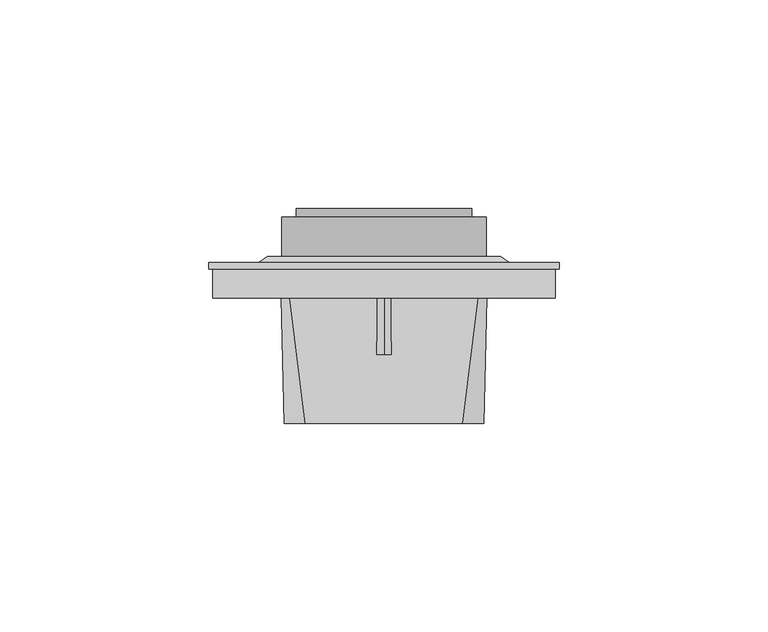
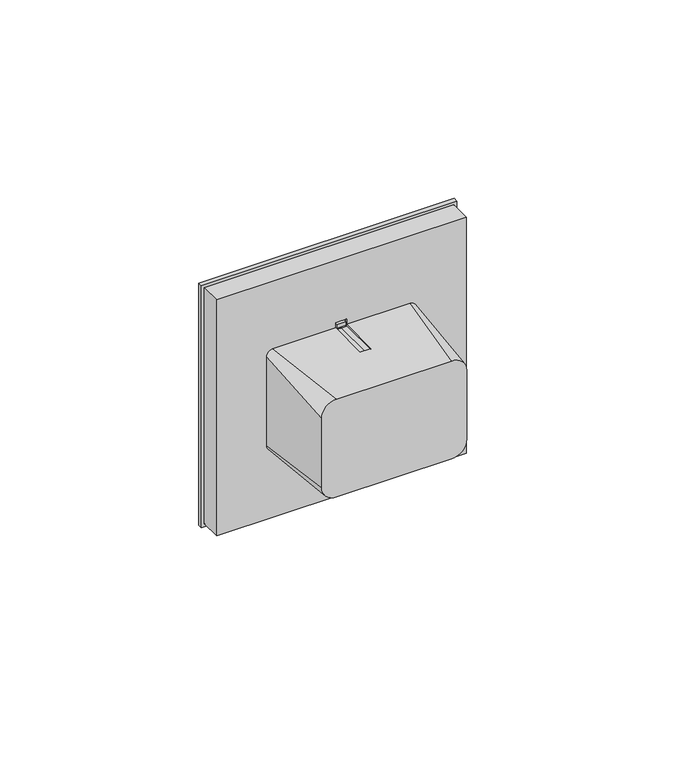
"""IFC4 building model written with IfcOpenShell, lengths in millimetres: proxy geometry, IEK_Brite_Розетка_1гн : Р1_РСР14-1-0-БрА."""

from ifc_helpers import new_model, si_unit, point, frame, frame_2d, origin, place, context, project, spatial, polyline, circle_curve, ellipse_curve, trimmed, segment, composite_curve, outline, extrude, source, transform, mapped, element, save
from ifc_brep_helpers import plane_surface, cylinder_surface, revolved_surface, spline_surface, advanced_brep


def electrical_fixtures_78160e77(model_context):
    return source(origin(), model_context, "Body", "SolidModel", [
        advanced_brep(
        [(-26.8904783, -13.4962918, 0.0), (-32.3753617, -13.4962918, 0.0), (-17.4894714, -13.4962918, 0.0), (-23.5105286, -13.4962918, 0.0), (-8.6246383, -13.4962918, 0.0), (-14.1095217, -13.4962918, 0.0), (-18.7082092, -13.4962918, 16.8280847), (-20.5, -13.4962918, 16.8280847), (-22.2917908, -13.4962918, 16.8280847), (-22.2917908, -13.4962918, 17.2750618), (-18.7082092, -13.4962918, 17.2750618), (-22.2917908, -13.4962918, -16.8280847), (-20.5, -13.4962918, -16.8280847), (-18.7082092, -13.4962918, -16.8280847), (-18.7082092, -13.4962918, -17.2750618), (-22.2917908, -13.4962918, -17.2750618), (-32.3753617, 0.0, 0.0), (-26.8904783, 0.0, 0.0), (-23.5105286, 0.0, 0.0), (-17.4894714, 0.0, 0.0), (-14.1095217, 0.0, 0.0), (-8.6246383, 0.0, 0.0), (-22.2917908, 0.0, 16.8280847), (-22.2917908, 0.0, 17.5), (-20.5, 0.0, 16.8280847), (-18.7082092, 0.0, 16.8280847), (-18.7082092, 0.0, 17.5), (-18.7082092, 0.0, -16.8280847), (-18.7082092, 0.0, -17.5), (-20.5, 0.0, -16.8280847), (-22.2917908, 0.0, -16.8280847), (-22.2917908, 0.0, -17.5), (-1.6500177, -30.0, -17.0), (3.3499823, -30.0, -12.0), (3.3499823, -30.0, 12.0), (-1.6500177, -30.0, 17.0), (-39.3499823, -30.0, 17.0), (-44.3499823, -30.0, 12.0), (-44.3499823, -30.0, -12.0), (-39.3499823, -30.0, -17.0), (-43.0691146, 0.0, -17.5), (-45.0691146, 0.0, -15.5), (-45.0691146, 0.0, 15.5), (-43.0691146, 0.0, 17.5), (2.0691146, 0.0, 17.5), (4.0691146, 0.0, 15.5), (4.0691146, 0.0, -15.5), (2.0691146, 0.0, -17.5)],
        [
            (0, 1, circle_curve(frame((-29.63292, -13.4962918, 0.0), z_axis=(0.0, 1.0, 0.0), x_axis=(-1.0, 0.0, 1.2191359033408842e-12)), 2.7424417)),
            (1, 0, circle_curve(frame((-29.63292, -13.4962918, 0.0), z_axis=(0.0, 1.0, 0.0), x_axis=(-1.0, 0.0, 1.2191359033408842e-12)), 2.7424417)),
            (2, 3, circle_curve(frame((-20.5, -13.4962918, 0.0), z_axis=(0.0, 1.0, 0.0), x_axis=(-1.0, 0.0, 1.2191359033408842e-12)), 3.0105286)),
            (3, 2, circle_curve(frame((-20.5, -13.4962918, 0.0), z_axis=(0.0, 1.0, 0.0), x_axis=(-1.0, 0.0, 1.2191359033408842e-12)), 3.0105286)),
            (4, 5, circle_curve(frame((-11.36708, -13.4962918, 0.0), z_axis=(0.0, 1.0, 0.0), x_axis=(-1.0, 0.0, 1.2191359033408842e-12)), 2.7424417)),
            (5, 4, circle_curve(frame((-11.36708, -13.4962918, 0.0), z_axis=(0.0, 1.0, 0.0), x_axis=(-1.0, 0.0, 1.2191359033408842e-12)), 2.7424417)),
            (6, 7),
            (7, 8),
            (8, 9),
            (9, 10),
            (10, 6),
            (11, 12),
            (12, 13),
            (13, 14),
            (14, 15),
            (15, 11),
            (1, 16),
            (16, 17, circle_curve(frame((-29.63292, 0.0, 0.0), z_axis=(0.0, 1.0, 0.0), x_axis=(-1.0, 0.0, 1.2191359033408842e-12)), 2.7424417)),
            (17, 0),
            (17, 16, circle_curve(frame((-29.63292, 0.0, 0.0), z_axis=(0.0, 1.0, 0.0), x_axis=(-1.0, 0.0, 1.2191359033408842e-12)), 2.7424417)),
            (3, 18),
            (18, 19, circle_curve(frame((-20.5, 0.0, 0.0), z_axis=(0.0, 1.0, 0.0), x_axis=(-1.0, 0.0, 1.2191359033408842e-12)), 3.0105286)),
            (19, 2),
            (19, 18, circle_curve(frame((-20.5, 0.0, 0.0), z_axis=(0.0, 1.0, 0.0), x_axis=(-1.0, 0.0, 1.2191359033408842e-12)), 3.0105286)),
            (5, 20),
            (20, 21, circle_curve(frame((-11.36708, 0.0, 0.0), z_axis=(0.0, 1.0, 0.0), x_axis=(-1.0, 0.0, 1.2191359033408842e-12)), 2.7424417)),
            (21, 4),
            (21, 20, circle_curve(frame((-11.36708, 0.0, 0.0), z_axis=(0.0, 1.0, 0.0), x_axis=(-1.0, 0.0, 1.2191359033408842e-12)), 2.7424417)),
            (8, 22),
            (22, 23),
            (23, 9),
            (7, 24),
            (24, 22),
            (6, 25),
            (25, 24),
            (10, 26),
            (26, 25),
            (13, 27),
            (27, 28),
            (28, 14),
            (12, 29),
            (29, 27),
            (11, 30),
            (30, 29),
            (15, 31),
            (31, 30),
            (32, 33, circle_curve(frame((-1.6500177, -30.0, -12.0), z_axis=(0.0, -1.0, 0.0), x_axis=(0.0, 0.0, -1.0)), 5.0)),
            (33, 34),
            (34, 35, circle_curve(frame((-1.6500177, -30.0, 12.0), z_axis=(0.0, -1.0, 0.0), x_axis=(0.0, 0.0, -1.0)), 5.0)),
            (35, 36),
            (36, 37, circle_curve(frame((-39.3499823, -30.0, 12.0), z_axis=(0.0, -1.0, 0.0), x_axis=(0.0, 0.0, -1.0)), 5.0)),
            (37, 38),
            (38, 39, circle_curve(frame((-39.3499823, -30.0, -12.0), z_axis=(0.0, -1.0, 0.0), x_axis=(0.0, 0.0, -1.0)), 5.0)),
            (39, 32),
            (40, 41, circle_curve(frame((-43.0691146, 0.0, -15.5), z_axis=(0.0, 1.0, 0.0), x_axis=(0.0, 0.0, -1.0)), 2.0)),
            (41, 42),
            (42, 43, circle_curve(frame((-43.0691146, 0.0, 15.5), z_axis=(0.0, 1.0, 0.0), x_axis=(0.0, 0.0, -1.0)), 2.0)),
            (43, 23),
            (26, 44),
            (44, 45, circle_curve(frame((2.0691146, 0.0, 15.5), z_axis=(0.0, 1.0, 0.0), x_axis=(0.0, 0.0, -1.0)), 2.0)),
            (45, 46),
            (46, 47, circle_curve(frame((2.0691146, 0.0, -15.5), z_axis=(0.0, 1.0, 0.0), x_axis=(0.0, 0.0, -1.0)), 2.0)),
            (47, 28),
            (31, 40),
            (32, 47),
            (46, 33),
            (45, 34),
            (44, 35),
            (43, 36),
            (42, 37),
            (41, 38),
            (40, 39),
        ],
        [
            plane_surface(frame((-32.3753617, -13.4962918, 0.0), z_axis=(0.0, 1.0, 0.0), x_axis=(-1.2191359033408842e-12, 0.0, -1.0))),
            revolved_surface(polyline([(-32.3753617, -13.4962918, 3.3434091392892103e-12), (-32.3753617, 0.0, 3.3434091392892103e-12)]), (-29.63292, 1.0, 0.0), (0.0, -1.0, 0.0)),
            revolved_surface(polyline([(-23.5105286, -13.4962918, 3.670243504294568e-12), (-23.5105286, 0.0, 3.670243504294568e-12)]), (-20.5, -2.0, 0.0), (0.0, -1.0, 0.0)),
            revolved_surface(polyline([(-14.1095217, -13.4962918, 3.3434091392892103e-12), (-14.1095217, 0.0, 3.3434091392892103e-12)]), (-11.36708, -2.0, 0.0), (0.0, -1.0, 0.0)),
            plane_surface(frame((-22.2917908, -13.4962918, 19.3280847), z_axis=(1.0, 0.0, -1.219917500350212e-12), x_axis=(0.0, 1.0, 0.0))),
            plane_surface(frame((-22.2917908, -13.4962918, 16.8280847), z_axis=(1.21932149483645e-12, 0.0, 1.0), x_axis=(0.0, 1.0, 0.0))),
            plane_surface(frame((-20.5, -13.4962918, 16.8280847), z_axis=(1.2240429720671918e-12, 0.0, 1.0), x_axis=(0.0, 1.0, 0.0))),
            plane_surface(frame((-18.7082092, -13.4962918, 16.8280847), z_axis=(-1.0, 0.0, 1.2190715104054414e-12), x_axis=(0.0, 1.0, 0.0))),
            plane_surface(frame((-18.7082092, -13.4962918, -19.3280847), z_axis=(-1.0, 0.0, 1.2190715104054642e-12), x_axis=(0.0, 1.0, 0.0))),
            plane_surface(frame((-18.7082092, -13.4962918, -16.8280847), z_axis=(-1.2240429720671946e-12, 0.0, -1.0), x_axis=(0.0, 1.0, 0.0))),
            plane_surface(frame((-20.5, -13.4962918, -16.8280847), z_axis=(-1.21932149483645e-12, 0.0, -1.0), x_axis=(0.0, 1.0, 0.0))),
            plane_surface(frame((-22.2917908, -13.4962918, -16.8280847), z_axis=(1.0, 0.0, -1.2199175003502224e-12), x_axis=(0.0, 1.0, 0.0))),
            plane_surface(frame((-20.5, -30.0, 0.0), z_axis=(0.0, -1.0, 0.0), x_axis=(1.0, 0.0, 0.0))),
            plane_surface(frame((-20.5, 0.0, 0.0), z_axis=(0.0, 1.0, 0.0), x_axis=(1.0, 0.0, 0.0))),
            spline_surface(2, 1, [[(2.0691146, 0.0, -17.5), (-1.6500177, -30.0, -17.0)], [(4.0691146, 0.0, -17.5), (3.3499822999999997, -30.0, -17.0)], [(4.0691146, 0.0, -15.5), (3.3499823, -30.0, -12.0)]], [3, 3], [2, 2], [0.0, 1.0], [0.0, 1.0], weights=[[1.0, 1.0], [0.7071067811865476, 0.7071067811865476], [1.0, 1.0]]),
            plane_surface(frame((4.0691146, 0.0, 0.0), z_axis=(0.9997128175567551, -0.023964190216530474, 0.0), x_axis=(0.0, 0.0, 1.0))),
            spline_surface(2, 1, [[(4.0691146, 0.0, 15.5), (3.3499823, -30.0, 12.0)], [(4.0691146, 0.0, 17.5), (3.3499822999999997, -30.0, 17.0)], [(2.0691146, 0.0, 17.5), (-1.6500177, -30.0, 17.0)]], [3, 3], [2, 2], [0.0, 1.0], [0.0, 1.0], weights=[[1.0, 1.0], [0.7071067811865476, 0.7071067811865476], [1.0, 1.0]]),
            plane_surface(frame((-20.5, 0.0, 17.5), z_axis=(0.0, -0.016664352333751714, 0.999861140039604), x_axis=(-1.0, 0.0, 0.0))),
            spline_surface(2, 1, [[(-43.0691146, 0.0, 17.5), (-39.3499823, -30.0, 17.0)], [(-45.0691146, 0.0, 17.5), (-44.3499823, -30.0, 17.0)], [(-45.0691146, 0.0, 15.5), (-44.3499823, -30.0, 12.0)]], [3, 3], [2, 2], [0.0, 1.0], [0.0, 1.0], weights=[[1.0, 1.0], [0.7071067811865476, 0.7071067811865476], [1.0, 1.0]]),
            plane_surface(frame((-45.0691146, 0.0, 0.0), z_axis=(-0.9997128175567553, -0.023964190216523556, 0.0), x_axis=(0.0, 0.0, -1.0))),
            spline_surface(2, 1, [[(-45.0691146, 0.0, -15.5), (-44.3499823, -30.0, -12.0)], [(-45.0691146, 0.0, -17.5), (-44.3499823, -30.0, -17.0)], [(-43.0691146, 0.0, -17.5), (-39.3499823, -30.0, -17.0)]], [3, 3], [2, 2], [0.0, 1.0], [0.0, 1.0], weights=[[1.0, 1.0], [0.7071067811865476, 0.7071067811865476], [1.0, 1.0]]),
            plane_surface(frame((-20.5, 0.0, -17.5), z_axis=(0.0, -0.016664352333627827, -0.9998611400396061), x_axis=(1.0, 0.0, 0.0))),
        ],
        [
            (0, [[1, 2]]),
            (0, [[3, 4]]),
            (0, [[5, 6]]),
            (0, [[7, 8, 9, 10, 11]]),
            (0, [[12, 13, 14, 15, 16]]),
            (1, [[-2, 17, 18, 19]]),
            (1, [[-1, -19, 20, -17]]),
            (2, [[-4, 21, 22, 23]]),
            (2, [[-3, -23, 24, -21]]),
            (3, [[-6, 25, 26, 27]]),
            (3, [[-5, -27, 28, -25]]),
            (4, [[-9, 29, 30, 31]]),
            (5, [[-8, 32, 33, -29]]),
            (6, [[-7, 34, 35, -32]]),
            (7, [[-11, 36, 37, -34]]),
            (8, [[-14, 38, 39, 40]]),
            (9, [[-13, 41, 42, -38]]),
            (10, [[-12, 43, 44, -41]]),
            (11, [[-16, 45, 46, -43]]),
            (12, [[47, 48, 49, 50, 51, 52, 53, 54]]),
            (13, [[55, 56, 57, 58, -30, -33, -35, -37, 59, 60, 61, 62, 63, -39, -42, -44, -46, 64], [-18, -20], [-22, -24], [-26, -28]]),
            (14, [[-47, 65, -62, 66]]),
            (15, [[-48, -66, -61, 67]]),
            (16, [[-49, -67, -60, 68]]),
            (17, [[-50, -68, -59, -36, -10, -31, -58, 69]]),
            (18, [[-51, -69, -57, 70]]),
            (19, [[-52, -70, -56, 71]]),
            (20, [[-53, -71, -55, 72]]),
            (21, [[-54, -72, -64, -45, -15, -40, -63, -65]]),
        ],
    ),
        advanced_brep(
        [(-26.8904783, 0.0, 0.0), (-32.3753617, 0.0, 0.0), (-32.3753617, 0.5, 0.0), (-26.8904783, 0.5, 0.0), (-17.4894714, 0.0, 0.0), (-23.5105286, 0.0, 0.0), (-23.5105286, 0.5, 0.0), (-17.4894714, 0.5, 0.0), (-8.6246383, 0.0, 0.0), (-14.1095217, 0.0, 0.0), (-14.1095217, 0.5, 0.0), (-8.6246383, 0.5, 0.0), (-22.2917908, 0.0, 19.3280847), (-22.2917908, 0.0, 16.8280847), (-22.2917908, 0.5, 16.8280847), (-22.2917908, 0.5, 19.3280847), (-20.5, 0.0, 16.8280847), (-20.5, 0.5, 16.8280847), (-18.7082092, 0.0, 16.8280847), (-18.7082092, 0.5, 16.8280847), (-18.7082092, 0.0, 19.3280847), (-18.7082092, 0.5, 19.3280847), (-20.5, 0.0, 19.3280847), (-20.5, 0.5, 19.3280847), (-22.2917908, 0.0, -19.3280847), (-20.5, 0.0, -19.3280847), (-20.5, 0.5, -19.3280847), (-22.2917908, 0.5, -19.3280847), (-18.7082092, 0.0, -19.3280847), (-18.7082092, 0.5, -19.3280847), (-18.7082092, 0.0, -16.8280847), (-18.7082092, 0.5, -16.8280847), (-20.5, 0.0, -16.8280847), (-20.5, 0.5, -16.8280847), (-22.2917908, 0.0, -16.8280847), (-22.2917908, 0.5, -16.8280847), (-48.5, 10.0, 28.0), (7.5, 10.0, 28.0), (7.5, 10.0, -28.0), (-48.5, 10.0, -28.0), (-0.5, 10.0, 0.0), (-40.5, 10.0, 0.0), (-50.5, 8.5, -30.0), (-50.5, 8.5, 30.0), (9.5, 8.5, -30.0), (9.5, 8.5, 30.0), (-0.5, 0.5, 0.0), (-40.5, 0.5, 0.0), (-62.5, 7.0, 42.0), (-62.5, 7.0, -42.0), (21.5, 7.0, -42.0), (21.5, 7.0, 42.0), (-61.5, 7.0, -41.0), (-61.5, 7.0, 41.0), (20.5, 7.0, 41.0), (20.5, 7.0, -41.0), (-62.5, 8.5, 42.0), (21.5, 8.5, 42.0), (21.5, 8.5, -42.0), (-62.5, 8.5, -42.0), (-61.5, 0.0, 41.0), (-61.5, 0.0, -41.0), (20.5, 0.0, -41.0), (20.5, 0.0, 41.0)],
        [
            (0, 1, circle_curve(frame((-29.63292, 0.0, 0.0), z_axis=(0.0, -1.0, 0.0), x_axis=(-1.0, 0.0, 1.2191359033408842e-12)), 2.7424417)),
            (1, 2),
            (2, 3, circle_curve(frame((-29.63292, 0.5, 0.0), z_axis=(0.0, 1.0, 0.0), x_axis=(-1.0, 0.0, 1.2191359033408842e-12)), 2.7424417)),
            (3, 0),
            (1, 0, circle_curve(frame((-29.63292, 0.0, 0.0), z_axis=(0.0, -1.0, 0.0), x_axis=(-1.0, 0.0, 1.2191359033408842e-12)), 2.7424417)),
            (3, 2, circle_curve(frame((-29.63292, 0.5, 0.0), z_axis=(0.0, 1.0, 0.0), x_axis=(-1.0, 0.0, 1.2191359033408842e-12)), 2.7424417)),
            (4, 5, circle_curve(frame((-20.5, 0.0, 0.0), z_axis=(0.0, -1.0, 0.0), x_axis=(-1.0, 0.0, 1.2191359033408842e-12)), 3.0105286)),
            (5, 6),
            (6, 7, circle_curve(frame((-20.5, 0.5, 0.0), z_axis=(0.0, 1.0, 0.0), x_axis=(-1.0, 0.0, 1.2191359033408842e-12)), 3.0105286)),
            (7, 4),
            (5, 4, circle_curve(frame((-20.5, 0.0, 0.0), z_axis=(0.0, -1.0, 0.0), x_axis=(-1.0, 0.0, 1.2191359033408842e-12)), 3.0105286)),
            (7, 6, circle_curve(frame((-20.5, 0.5, 0.0), z_axis=(0.0, 1.0, 0.0), x_axis=(-1.0, 0.0, 1.2191359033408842e-12)), 3.0105286)),
            (8, 9, circle_curve(frame((-11.36708, 0.0, 0.0), z_axis=(0.0, -1.0, 0.0), x_axis=(-1.0, 0.0, 1.2191359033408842e-12)), 2.7424417)),
            (9, 10),
            (10, 11, circle_curve(frame((-11.36708, 0.5, 0.0), z_axis=(0.0, 1.0, 0.0), x_axis=(-1.0, 0.0, 1.2191359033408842e-12)), 2.7424417)),
            (11, 8),
            (9, 8, circle_curve(frame((-11.36708, 0.0, 0.0), z_axis=(0.0, -1.0, 0.0), x_axis=(-1.0, 0.0, 1.2191359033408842e-12)), 2.7424417)),
            (11, 10, circle_curve(frame((-11.36708, 0.5, 0.0), z_axis=(0.0, 1.0, 0.0), x_axis=(-1.0, 0.0, 1.2191359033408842e-12)), 2.7424417)),
            (12, 13),
            (13, 14),
            (14, 15),
            (15, 12),
            (13, 16),
            (16, 17),
            (17, 14),
            (16, 18),
            (18, 19),
            (19, 17),
            (18, 20),
            (20, 21),
            (21, 19),
            (20, 22),
            (22, 23),
            (23, 21),
            (22, 12),
            (15, 23),
            (24, 25),
            (25, 26),
            (26, 27),
            (27, 24),
            (25, 28),
            (28, 29),
            (29, 26),
            (28, 30),
            (30, 31),
            (31, 29),
            (30, 32),
            (32, 33),
            (33, 31),
            (32, 34),
            (34, 35),
            (35, 33),
            (34, 24),
            (27, 35),
            (36, 37),
            (37, 38),
            (38, 39),
            (39, 36),
            (40, 41, circle_curve(frame((-20.5, 10.0, 0.0), z_axis=(0.0, -1.0, 0.0), x_axis=(-1.0, 0.0, 0.0)), 20.0)),
            (41, 40, circle_curve(frame((-20.5, 10.0, 0.0), z_axis=(0.0, -1.0, 0.0), x_axis=(-1.0, 0.0, 0.0)), 20.0)),
            (39, 42),
            (42, 43),
            (43, 36),
            (38, 44),
            (44, 42),
            (37, 45),
            (45, 44),
            (43, 45),
            (46, 47, circle_curve(frame((-20.5, 0.5, 0.0), z_axis=(0.0, 1.0, 0.0), x_axis=(-1.0, 0.0, 0.0)), 20.0)),
            (47, 46, circle_curve(frame((-20.5, 0.5, 0.0), z_axis=(0.0, 1.0, 0.0), x_axis=(-1.0, 0.0, 0.0)), 20.0)),
            (47, 41),
            (40, 46),
            (48, 49),
            (49, 50),
            (50, 51),
            (51, 48),
            (52, 53),
            (53, 54),
            (54, 55),
            (55, 52),
            (56, 57),
            (57, 58),
            (58, 59),
            (59, 56),
            (51, 57),
            (56, 48),
            (50, 58),
            (49, 59),
            (60, 61),
            (61, 62),
            (62, 63),
            (63, 60),
            (60, 53),
            (52, 61),
            (55, 62),
            (63, 54),
        ],
        [
            revolved_surface(polyline([(-32.3753617, 0.0, 3.3434091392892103e-12), (-32.3753617, 0.5, 3.3434091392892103e-12)]), (-29.63292, 1.0, 0.0), (0.0, -1.0, 0.0)),
            revolved_surface(polyline([(-23.5105286, 0.0, 3.670243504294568e-12), (-23.5105286, 0.5, 3.670243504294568e-12)]), (-20.5, -2.0, 0.0), (0.0, -1.0, 0.0)),
            revolved_surface(polyline([(-14.1095217, 0.0, 3.3434091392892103e-12), (-14.1095217, 0.5, 3.3434091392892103e-12)]), (-11.36708, -2.0, 0.0), (0.0, -1.0, 0.0)),
            plane_surface(frame((-22.2917908, -13.4962918, 19.3280847), z_axis=(1.0, 0.0, -1.219917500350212e-12), x_axis=(0.0, 1.0, 0.0))),
            plane_surface(frame((-22.2917908, -13.4962918, 16.8280847), z_axis=(1.21932149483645e-12, 0.0, 1.0), x_axis=(0.0, 1.0, 0.0))),
            plane_surface(frame((-20.5, -13.4962918, 16.8280847), z_axis=(1.2240429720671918e-12, 0.0, 1.0), x_axis=(0.0, 1.0, 0.0))),
            plane_surface(frame((-18.7082092, -13.4962918, 16.8280847), z_axis=(-1.0, 0.0, 1.2190715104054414e-12), x_axis=(0.0, 1.0, 0.0))),
            plane_surface(frame((-18.7082092, -13.4962918, 19.3280847), z_axis=(-1.2181411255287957e-12, 0.0, -1.0), x_axis=(0.0, 1.0, 0.0))),
            plane_surface(frame((-20.5, -13.4962918, 19.3280847), z_axis=(-1.2181411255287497e-12, 0.0, -1.0), x_axis=(0.0, 1.0, 0.0))),
            plane_surface(frame((-22.2917908, -13.4962918, -19.3280847), z_axis=(1.2181411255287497e-12, 0.0, 1.0), x_axis=(0.0, 1.0, 0.0))),
            plane_surface(frame((-20.5, -13.4962918, -19.3280847), z_axis=(1.2181411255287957e-12, 0.0, 1.0), x_axis=(0.0, 1.0, 0.0))),
            plane_surface(frame((-18.7082092, -13.4962918, -19.3280847), z_axis=(-1.0, 0.0, 1.2190715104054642e-12), x_axis=(0.0, 1.0, 0.0))),
            plane_surface(frame((-18.7082092, -13.4962918, -16.8280847), z_axis=(-1.2240429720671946e-12, 0.0, -1.0), x_axis=(0.0, 1.0, 0.0))),
            plane_surface(frame((-20.5, -13.4962918, -16.8280847), z_axis=(-1.21932149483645e-12, 0.0, -1.0), x_axis=(0.0, 1.0, 0.0))),
            plane_surface(frame((-22.2917908, -13.4962918, -16.8280847), z_axis=(1.0, 0.0, -1.2199175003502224e-12), x_axis=(0.0, 1.0, 0.0))),
            plane_surface(frame((-20.5, 10.0, 0.0), z_axis=(0.0, 1.0, 0.0), x_axis=(1.0, 0.0, 0.0))),
            plane_surface(frame((-48.5, 10.0, 0.0), z_axis=(-0.5999999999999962, 0.8000000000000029, 0.0), x_axis=(0.0, 0.0, -1.0))),
            plane_surface(frame((-20.5, 10.0, -28.0), z_axis=(0.0, 0.7999999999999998, -0.6000000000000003), x_axis=(1.0, 0.0, 0.0))),
            plane_surface(frame((7.5, 10.0, 0.0), z_axis=(0.6000000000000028, 0.7999999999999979, 0.0), x_axis=(0.0, 0.0, 1.0))),
            plane_surface(frame((-20.5, 10.0, 28.0), z_axis=(0.0, 0.7999999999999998, 0.6000000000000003), x_axis=(-1.0, 0.0, 0.0))),
            plane_surface(frame((-40.5, 0.5, 0.0), z_axis=(0.0, 1.0, 0.0), x_axis=(0.0, 0.0, -1.0))),
            revolved_surface(polyline([(-40.5, 10.0, 0.0), (-40.5, 0.5, 0.0)]), (-20.5, 0.5, 0.0), (0.0, 1.0, 0.0)),
            plane_surface(frame((62.5, 7.0, 42.0), z_axis=(0.0, -1.0, 0.0), x_axis=(-1.0, 0.0, 0.0))),
            plane_surface(frame((62.5, 8.5, 42.0), z_axis=(0.0, 1.0, 0.0), x_axis=(1.0, 0.0, 0.0))),
            plane_surface(frame((-62.5, 8.5, 42.0), z_axis=(0.0, 0.0, 1.0), x_axis=(0.0, -1.0, 0.0))),
            plane_surface(frame((21.5, 8.5, 42.0), z_axis=(1.0, 0.0, 0.0), x_axis=(0.0, -1.0, 0.0))),
            plane_surface(frame((21.5, 8.5, -42.0), z_axis=(0.0, 0.0, -1.0), x_axis=(0.0, -1.0, 0.0))),
            plane_surface(frame((-62.5, 8.5, -42.0), z_axis=(-1.0, 0.0, 0.0), x_axis=(0.0, -1.0, 0.0))),
            plane_surface(frame((-61.5, 0.0, 41.0), z_axis=(0.0, -1.0, 0.0), x_axis=(0.0, 0.0, -1.0))),
            plane_surface(frame((-61.5, 0.0, 41.0), z_axis=(-1.0, 0.0, 0.0), x_axis=(0.0, 1.0, 0.0))),
            plane_surface(frame((-61.5, 0.0, -41.0), z_axis=(0.0, 0.0, -1.0), x_axis=(0.0, 1.0, 0.0))),
            plane_surface(frame((20.5, 0.0, 41.0), z_axis=(0.0, 0.0, 1.0), x_axis=(0.0, 1.0, 0.0))),
            plane_surface(frame((20.5, 0.0, -41.0), z_axis=(1.0, 0.0, 0.0), x_axis=(0.0, 1.0, 0.0))),
        ],
        [
            (0, [[1, 2, 3, 4]]),
            (0, [[5, -4, 6, -2]]),
            (1, [[7, 8, 9, 10]]),
            (1, [[11, -10, 12, -8]]),
            (2, [[13, 14, 15, 16]]),
            (2, [[17, -16, 18, -14]]),
            (3, [[19, 20, 21, 22]]),
            (4, [[23, 24, 25, -20]]),
            (5, [[26, 27, 28, -24]]),
            (6, [[29, 30, 31, -27]]),
            (7, [[32, 33, 34, -30]]),
            (8, [[35, -22, 36, -33]]),
            (9, [[37, 38, 39, 40]]),
            (10, [[41, 42, 43, -38]]),
            (11, [[44, 45, 46, -42]]),
            (12, [[47, 48, 49, -45]]),
            (13, [[50, 51, 52, -48]]),
            (14, [[53, -40, 54, -51]]),
            (15, [[55, 56, 57, 58], [59, 60]]),
            (16, [[-58, 61, 62, 63]]),
            (17, [[-57, 64, 65, -61]]),
            (18, [[-56, 66, 67, -64]]),
            (19, [[-55, -63, 68, -66]]),
            (20, [[69, 70], [-3, -6], [-9, -12], [-15, -18], [-21, -25, -28, -31, -34, -36], [-39, -43, -46, -49, -52, -54]]),
            (21, [[-70, 71, -59, 72]]),
            (21, [[-69, -72, -60, -71]]),
            (22, [[73, 74, 75, 76], [77, 78, 79, 80]]),
            (23, [[81, 82, 83, 84], [-62, -65, -67, -68]]),
            (24, [[-76, 85, -81, 86]]),
            (25, [[-75, 87, -82, -85]]),
            (26, [[-74, 88, -83, -87]]),
            (27, [[-73, -86, -84, -88]]),
            (28, [[89, 90, 91, 92], [-1, -5], [-7, -11], [-13, -17], [-19, -35, -32, -29, -26, -23], [-37, -53, -50, -47, -44, -41]]),
            (29, [[-89, 93, -77, 94]]),
            (30, [[-90, -94, -80, 95]]),
            (31, [[-92, 96, -78, -93]]),
            (32, [[-91, -95, -79, -96]]),
        ],
    ),
        advanced_brep(
        [(-20.5, 1.3649081, 0.0), (-17.6013083, 0.578125, 0.0), (-23.3986917, 0.578125, 0.0), (-17.6013083, -1.2, 0.0), (-23.3986917, -1.2, 0.0), (-20.5, -1.2, 0.0)],
        [
            (0, 1, ellipse_curve(frame((-20.34375, 0.578125, 0.0), z_axis=(0.0, 0.0, -1.0), x_axis=(1.0, 0.0, 0.0)), 2.7424417, 0.7880633)),
            (1, 2, circle_curve(frame((-20.5, 0.578125, 0.0), z_axis=(0.0, 1.0, 0.0), x_axis=(1.0, 0.0, 0.0)), 2.8986917)),
            (2, 0, ellipse_curve(frame((-20.65625, 0.578125, 0.0), z_axis=(0.0, 0.0, -1.0), x_axis=(-1.0, 0.0, 0.0)), 2.7424417, 0.7880633)),
            (2, 1, circle_curve(frame((-20.5, 0.578125, 0.0), z_axis=(0.0, 1.0, 0.0), x_axis=(1.0, 0.0, 0.0)), 2.8986917)),
            (1, 3),
            (3, 4, circle_curve(frame((-20.5, -1.2, 0.0), z_axis=(0.0, 1.0, 0.0), x_axis=(1.0, 0.0, 0.0)), 2.8986917)),
            (4, 2),
            (4, 3, circle_curve(frame((-20.5, -1.2, 0.0), z_axis=(0.0, 1.0, 0.0), x_axis=(1.0, 0.0, 0.0)), 2.8986917)),
            (3, 5),
            (5, 4),
        ],
        [
            revolved_surface(trimmed(ellipse_curve(frame((-20.34375, 0.578125, 0.0), z_axis=(0.0, 0.0, 1.0), x_axis=(1.0, 0.0, 0.0)), 2.7424417, 0.7880633), [point((-17.6013083, 0.578125, 0.0))], [point((-20.5, 1.3649081, 0.0))], True, "CARTESIAN"), (-20.5, -2.5228134, 0.0), (0.0, 1.0, 0.0)),
            cylinder_surface(frame((-20.5, -2.5228134, 0.0), z_axis=(0.0, 1.0, 0.0), x_axis=(1.0, 0.0, 0.0)), 2.8986917),
            plane_surface(frame((-20.5, -1.2, 0.0), z_axis=(0.0, -1.0, 0.0), x_axis=(1.0, 0.0, 0.0))),
        ],
        [
            (0, [[1, 2, 3]]),
            (0, [[-3, 4, -1]]),
            (1, [[-2, 5, 6, 7]]),
            (1, [[-4, -7, 8, -5]]),
            (2, [[-6, 9, 10]]),
            (2, [[-8, -10, -9]]),
        ],
    ),
        extrude(outline(composite_curve([segment(trimmed(circle_curve(frame_2d((9.5501956, 19.2322549)), 1.2539127), [point((10.7960794, 19.3739261))], [point((8.6580873, 18.3510967))], False, "CARTESIAN"), True, "CONTINUOUS"), segment(polyline([(8.6580873, 18.3510967), (0.0, 17.3437766), (0.0, 18.6024531), (10.7960794, 19.3739261)]), True, "CONTINUOUS")], self_intersect=False)), frame((-22.0, 0.0, 0.0), z_axis=(1.0, 0.0, 0.0), x_axis=(0.0, 1.0, 0.0)), (0.0, 0.0, 1.0), 3.0),
        extrude(outline(composite_curve([segment(polyline([(10.7960794, -19.3739261), (-1.2, -18.5167027), (-1.2, -17.2041634), (8.6580873, -18.3510967)]), True, "CONTINUOUS"), segment(trimmed(circle_curve(frame_2d((9.5501956, -19.2322549)), 1.2539127), [point((8.6580873, -18.3510967))], [point((10.7960794, -19.3739261))], False, "CARTESIAN"), True, "CONTINUOUS")], self_intersect=False)), frame((-22.0, 0.0, 0.0), z_axis=(1.0, 0.0, 0.0), x_axis=(0.0, 1.0, 0.0)), (0.0, 0.0, 1.0), 3.0),
        advanced_brep(
        [(3.9990267, 19.5, 0.0), (-44.9990267, 19.5, 0.0), (0.5, 19.5, 0.0), (-41.5, 19.5, 0.0), (3.9990267, 10.0, 0.0), (-44.9990267, 10.0, 0.0), (-0.5, 10.0, 0.0), (-0.7738041, 10.0, -3.2980592), (-4.011536, 10.0, -11.3194768), (-36.988464, 10.0, -11.3194768), (-40.2261959, 10.0, -3.2980592), (-40.5, 10.0, 0.0), (-40.2261959, 10.0, 3.2980592), (-36.988464, 10.0, 11.3194768), (-4.011536, 10.0, 11.3194768), (-0.7738041, 10.0, 3.2980592), (-0.5, 19.5, 0.0), (-0.7738041, 12.2142117, 3.2980592), (-4.011536, 12.2142117, 11.3194768), (-36.988464, 12.2142117, 11.3194768), (-40.2261959, 12.2142117, 3.2980592), (-40.5, 19.5, 0.0), (-40.2261959, 12.2142117, -3.2980592), (-36.988464, 12.2142117, -11.3194768), (-4.011536, 12.2142117, -11.3194768), (-0.7738041, 12.2142117, -3.2980592), (0.5, 21.5, 0.0), (-41.5, 21.5, 0.0), (-40.5, 21.5, 0.0), (-0.5, 21.5, 0.0), (-4.011536, 12.2142117, 3.2980592), (-4.011536, 12.2142117, -3.2980592), (-36.988464, 12.2142117, 3.2980592), (-36.988464, 12.2142117, -3.2980592), (-4.011536, 0.5, 3.2980592), (-0.7738041, 0.5, 3.2980592), (-4.011536, 0.5, 11.3194768), (-4.011536, 0.5, -3.2980592), (-4.011536, 0.5, -11.3194768), (-0.7738041, 0.5, -3.2980592), (-36.988464, 0.5, 3.2980592), (-36.988464, 0.5, 11.3194768), (-40.2261959, 0.5, 3.2980592), (-36.988464, 0.5, -3.2980592), (-40.2261959, 0.5, -3.2980592), (-36.988464, 0.5, -11.3194768)],
        [
            (0, 1, circle_curve(frame((-20.5, 19.5, 0.0), z_axis=(0.0, 1.0, 0.0), x_axis=(-1.0, 0.0, 0.0)), 24.4990267)),
            (1, 0, circle_curve(frame((-20.5, 19.5, 0.0), z_axis=(0.0, 1.0, 0.0), x_axis=(-1.0, 0.0, 0.0)), 24.4990267)),
            (2, 3, circle_curve(frame((-20.5, 19.5, 0.0), z_axis=(0.0, -1.0, 0.0), x_axis=(-1.0, 0.0, 0.0)), 21.0)),
            (3, 2, circle_curve(frame((-20.5, 19.5, 0.0), z_axis=(0.0, -1.0, 0.0), x_axis=(-1.0, 0.0, 0.0)), 21.0)),
            (4, 5, circle_curve(frame((-20.5, 10.0, 0.0), z_axis=(0.0, -1.0, 0.0), x_axis=(-1.0, 0.0, 0.0)), 24.4990267)),
            (5, 4, circle_curve(frame((-20.5, 10.0, 0.0), z_axis=(0.0, -1.0, 0.0), x_axis=(-1.0, 0.0, 0.0)), 24.4990267)),
            (6, 7, circle_curve(frame((-20.5, 10.0, 0.0), z_axis=(0.0, 1.0, 0.0), x_axis=(-1.0, 0.0, 0.0)), 20.0)),
            (7, 8, circle_curve(frame((-20.5, 10.0, 0.0), z_axis=(0.0, 1.0, 0.0), x_axis=(1.0, 0.0, 0.0)), 20.0)),
            (8, 9, circle_curve(frame((-20.5, 10.0, 0.0), z_axis=(0.0, 1.0, 0.0), x_axis=(-1.0, 0.0, 0.0)), 20.0)),
            (9, 10, circle_curve(frame((-20.5, 10.0, 0.0), z_axis=(0.0, 1.0, 0.0), x_axis=(1.0, 0.0, 0.0)), 20.0)),
            (10, 11, circle_curve(frame((-20.5, 10.0, 0.0), z_axis=(0.0, 1.0, 0.0), x_axis=(-1.0, 0.0, 0.0)), 20.0)),
            (11, 12, circle_curve(frame((-20.5, 10.0, 0.0), z_axis=(0.0, 1.0, 0.0), x_axis=(-1.0, 0.0, 0.0)), 20.0)),
            (12, 13, circle_curve(frame((-20.5, 10.0, 0.0), z_axis=(0.0, 1.0, 0.0), x_axis=(1.0, 0.0, 0.0)), 20.0)),
            (13, 14, circle_curve(frame((-20.5, 10.0, 0.0), z_axis=(0.0, 1.0, 0.0), x_axis=(-1.0, 0.0, 0.0)), 20.0)),
            (14, 15, circle_curve(frame((-20.5, 10.0, 0.0), z_axis=(0.0, 1.0, 0.0), x_axis=(1.0, 0.0, 0.0)), 20.0)),
            (15, 6, circle_curve(frame((-20.5, 10.0, 0.0), z_axis=(0.0, 1.0, 0.0), x_axis=(-1.0, 0.0, 0.0)), 20.0)),
            (16, 6),
            (15, 17),
            (17, 18, circle_curve(frame((-20.5, 12.2142117, 0.0), z_axis=(0.0, -1.0, 0.0), x_axis=(-1.0, 0.0, 0.0)), 20.0)),
            (18, 14),
            (13, 19),
            (19, 20, circle_curve(frame((-20.5, 12.2142117, 0.0), z_axis=(0.0, -1.0, 0.0), x_axis=(-1.0, 0.0, 0.0)), 20.0)),
            (20, 12),
            (11, 21),
            (21, 16, circle_curve(frame((-20.5, 19.5, 0.0), z_axis=(0.0, 1.0, 0.0), x_axis=(-1.0, 0.0, 0.0)), 20.0)),
            (16, 21, circle_curve(frame((-20.5, 19.5, 0.0), z_axis=(0.0, 1.0, 0.0), x_axis=(-1.0, 0.0, 0.0)), 20.0)),
            (10, 22),
            (22, 23, circle_curve(frame((-20.5, 12.2142117, 0.0), z_axis=(0.0, -1.0, 0.0), x_axis=(-1.0, 0.0, 0.0)), 20.0)),
            (23, 9),
            (8, 24),
            (24, 25, circle_curve(frame((-20.5, 12.2142117, 0.0), z_axis=(0.0, -1.0, 0.0), x_axis=(-1.0, 0.0, 0.0)), 20.0)),
            (25, 7),
            (26, 27, circle_curve(frame((-20.5, 21.5, 0.0), z_axis=(0.0, 1.0, 0.0), x_axis=(-1.0, 0.0, 0.0)), 21.0)),
            (27, 26, circle_curve(frame((-20.5, 21.5, 0.0), z_axis=(0.0, 1.0, 0.0), x_axis=(-1.0, 0.0, 0.0)), 21.0)),
            (28, 29, circle_curve(frame((-20.5, 21.5, 0.0), z_axis=(0.0, -1.0, 0.0), x_axis=(-1.0, 0.0, 0.0)), 20.0)),
            (29, 28, circle_curve(frame((-20.5, 21.5, 0.0), z_axis=(0.0, -1.0, 0.0), x_axis=(-1.0, 0.0, 0.0)), 20.0)),
            (28, 21),
            (16, 29),
            (27, 3),
            (2, 26),
            (0, 4),
            (5, 1),
            (30, 18),
            (17, 30),
            (31, 25),
            (24, 31),
            (32, 20),
            (19, 32),
            (33, 23),
            (22, 33),
            (34, 35),
            (35, 36, circle_curve(frame((-20.5, 0.5, 0.0), z_axis=(0.0, -1.0, 0.0), x_axis=(1.0, 0.0, 0.0)), 20.0)),
            (36, 34),
            (37, 38),
            (38, 39, circle_curve(frame((-20.5, 0.5, 0.0), z_axis=(0.0, -1.0, 0.0), x_axis=(1.0, 0.0, 0.0)), 20.0)),
            (39, 37),
            (40, 41),
            (41, 42, circle_curve(frame((-20.5, 0.5, 0.0), z_axis=(0.0, -1.0, 0.0), x_axis=(1.0, 0.0, 0.0)), 20.0)),
            (42, 40),
            (43, 44),
            (44, 45, circle_curve(frame((-20.5, 0.5, 0.0), z_axis=(0.0, -1.0, 0.0), x_axis=(1.0, 0.0, 0.0)), 20.0)),
            (45, 43),
            (15, 35),
            (34, 30),
            (14, 36),
            (8, 38),
            (37, 31),
            (7, 39),
            (13, 41),
            (40, 32),
            (12, 42),
            (10, 44),
            (43, 33),
            (9, 45),
        ],
        [
            plane_surface(frame((-40.5, 19.5, 0.0), z_axis=(0.0, 1.0, 0.0), x_axis=(0.0, 0.0, -1.0))),
            plane_surface(frame((-40.5, 10.0, 0.0), z_axis=(0.0, -1.0, 0.0), x_axis=(0.0, 0.0, 1.0))),
            revolved_surface(polyline([(-40.5, 10.0, 0.0), (-40.5, 19.5, 0.0)]), (-20.5, 10.0, 0.0), (0.0, -1.0, 0.0)),
            plane_surface(frame((-40.5, 21.5, 0.0), z_axis=(0.0, 1.0, 0.0), x_axis=(0.0, 0.0, -1.0))),
            revolved_surface(polyline([(-40.5, 19.5, 0.0), (-40.5, 21.5, 0.0)]), (-20.5, 19.5, 0.0), (0.0, -1.0, 0.0)),
            cylinder_surface(frame((-20.5, 19.5, 0.0), z_axis=(0.0, 1.0, 0.0), x_axis=(-1.0, 0.0, 0.0)), 21.0),
            cylinder_surface(frame((-20.5, 10.0, 0.0), z_axis=(0.0, 1.0, 0.0), x_axis=(-1.0, 0.0, 0.0)), 24.4990267),
            plane_surface(frame((-4.011536, 12.2142117, 3.2980592), z_axis=(0.0, 1.0, 0.0), x_axis=(-1.0, 0.0, 0.0))),
            plane_surface(frame((-4.011536, 0.5, 3.2980592), z_axis=(0.0, -1.0, 0.0), x_axis=(1.0, 0.0, 0.0))),
            plane_surface(frame((-4.011536, 0.5, 3.2980592), z_axis=(0.0, 0.0, -1.0), x_axis=(0.0, 1.0, 0.0))),
            cylinder_surface(frame((-20.5, 12.2142117, 0.0), z_axis=(0.0, -1.0, 0.0), x_axis=(1.0, 0.0, 0.0)), 20.0),
            plane_surface(frame((-4.011536, 0.5, 11.3194768), z_axis=(-1.0, 0.0, 0.0), x_axis=(0.0, 1.0, 0.0))),
            plane_surface(frame((-4.011536, 0.5, -3.2980592), z_axis=(-1.0, 0.0, 0.0), x_axis=(0.0, 1.0, 0.0))),
            cylinder_surface(frame((-20.5, -2.0, 0.0), z_axis=(0.0, -1.0, 0.0), x_axis=(1.0, 0.0, 0.0)), 20.0),
            plane_surface(frame((-0.7738041, 0.5, -3.2980592), z_axis=(0.0, 0.0, 1.0), x_axis=(0.0, 1.0, 0.0))),
            plane_surface(frame((-36.988464, 0.5, 3.2980592), z_axis=(1.0, 0.0, 0.0), x_axis=(0.0, 1.0, 0.0))),
            plane_surface(frame((-40.2261959, 0.5, 3.2980592), z_axis=(0.0, 0.0, -1.0), x_axis=(0.0, 1.0, 0.0))),
            plane_surface(frame((-36.988464, 0.5, -3.2980592), z_axis=(0.0, 0.0, 1.0), x_axis=(0.0, 1.0, 0.0))),
            plane_surface(frame((-36.988464, 0.5, -11.3194768), z_axis=(1.0, 0.0, 0.0), x_axis=(0.0, 1.0, 0.0))),
        ],
        [
            (0, [[1, 2], [3, 4]]),
            (1, [[5, 6], [7, 8, 9, 10, 11, 12, 13, 14, 15, 16]]),
            (2, [[17, -16, 18, 19, 20, -14, 21, 22, 23, -12, 24, 25]]),
            (2, [[-17, 26, -24, -11, 27, 28, 29, -9, 30, 31, 32, -7]]),
            (3, [[33, 34], [35, 36]]),
            (4, [[-35, 37, -26, 38]]),
            (4, [[-36, -38, -25, -37]]),
            (5, [[-34, 39, -3, 40]]),
            (5, [[-33, -40, -4, -39]]),
            (6, [[-1, 41, -6, 42]]),
            (6, [[-2, -42, -5, -41]]),
            (7, [[43, -19, 44]]),
            (7, [[45, -31, 46]]),
            (7, [[47, -22, 48]]),
            (7, [[49, -28, 50]]),
            (8, [[51, 52, 53]]),
            (8, [[54, 55, 56]]),
            (8, [[57, 58, 59]]),
            (8, [[60, 61, 62]]),
            (9, [[-44, -18, 63, -51, 64]]),
            (10, [[-52, -63, -15, 65]]),
            (11, [[-43, -64, -53, -65, -20]]),
            (12, [[-46, -30, 66, -54, 67]]),
            (13, [[-55, -66, -8, 68]]),
            (14, [[-45, -67, -56, -68, -32]]),
            (15, [[-48, -21, 69, -57, 70]]),
            (13, [[-58, -69, -13, 71]]),
            (16, [[-47, -70, -59, -71, -23]]),
            (17, [[-50, -27, 72, -60, 73]]),
            (13, [[-61, -72, -10, 74]]),
            (18, [[-49, -73, -62, -74, -29]]),
        ],
    ),
    ])


if __name__ == "__main__":
    model = new_model("IFC4")
    model_context = context("Model", 3, world=origin())
    ifc_project = project(units=[si_unit("LENGTHUNIT", "METRE", prefix="MILLI")], contexts=[model_context])
    site = spatial("IfcSite", under=ifc_project)
    building = spatial("IfcBuilding", under=site)
    placement = place(None, origin())
    electrical_fixtures_shape = electrical_fixtures_78160e77(model_context)
    element("IfcBuildingElementProxy", 1, Name="IEK_Brite_Розетка_1гн : Р1_РСР14-1-0-БрА", ObjectType="IEK_Brite_Розетка_1гн : Р1_РСР14-1-0-БрА", at=placement, inside=building, context=model_context, shape_type="MappedRepresentation", body=[
        mapped(electrical_fixtures_shape, transform((0.0, 0.0, 0.0), x_axis=(1.0, 0.0, 0.0), y_axis=(0.0, 1.0, 0.0), z_axis=(0.0, 0.0, 1.0))),
    ])
    save(model, "model.ifc")
